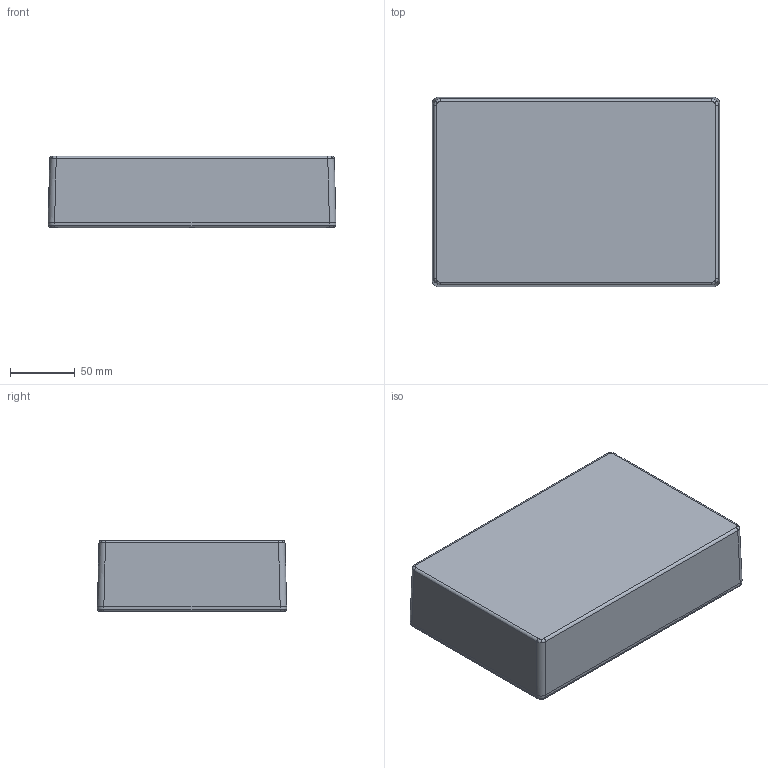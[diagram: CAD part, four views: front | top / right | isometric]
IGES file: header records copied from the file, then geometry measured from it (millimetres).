
Global section: file name: 1550G.iam; native system: Autodesk Inventor 2014; preprocessor: unknown; author: fwarzocha; date: 20141029.101334; units: millimetre
Bounding box: 222 x 146 x 55.1 mm (x, y, z)
Volume: 217182 mm3; surface area: 206944.1 mm2
Topology: 8 solids, 8 shells, 1045 faces, 2834 edges, 1854 vertices
Faces by surface type: plane 403, bspline 382, revolution 172, cylinder 50, cone 38
Full cylindrical faces by diameter (mm): 3.43 x6
